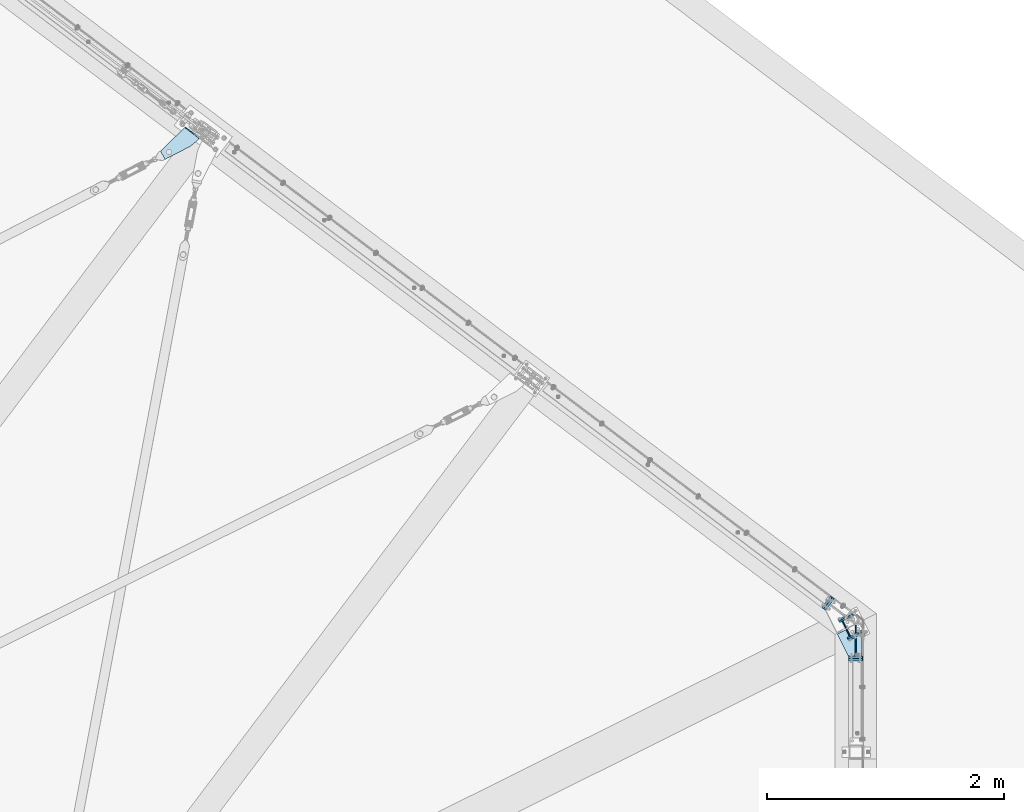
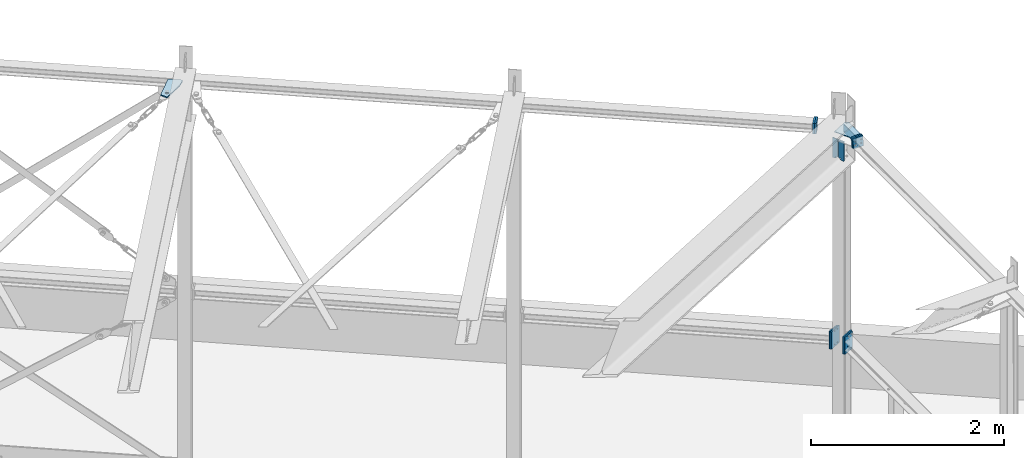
# One storey, part 67 of 476: 13 plates, 56 openings.
"""IFC2X3 building model written with IfcOpenShell, lengths in millimetres."""

from ifc_helpers import new_model, entity, si_unit, converted_unit, point, frame, frame_2d, origin, origin_with_axes, origin_2d_with_axis, place, context, project, spatial, polyline, circle_curve, line_curve, trimmed, segment, composite_curve, circle, outline, extrude, material, layer, layer_set, element, save


model = new_model("IFC2X3")

# Units and contexts
model_context = context("Model", 3, precision=1e-09, world=origin_with_axes())
ifc_project = project(units=[si_unit("LENGTHUNIT", "METRE", prefix="MILLI"), si_unit("AREAUNIT", "SQUARE_METRE"), si_unit("VOLUMEUNIT", "CUBIC_METRE"), converted_unit("PLANEANGLEUNIT", "DEGREE", entity("IfcPlaneAngleMeasure", 0.01745329), si_unit("PLANEANGLEUNIT", "RADIAN"), dimensions=[0, 0, 0, 0, 0, 0, 0])], contexts=[model_context])

# Site, building, storey
site_placement = place(None, origin_with_axes())
site = spatial("IfcSite", under=ifc_project, at=site_placement, Name="mKR Teilneubau & Sanierung BA1 - Ostfildern", CompositionType="ELEMENT")
building_placement = place(site_placement, origin_with_axes())
building = spatial("IfcBuilding", under=site, at=building_placement, Name="Struktur 1", CompositionType="ELEMENT")
storey_placement = place(building_placement, origin_with_axes())
storey = spatial("IfcBuildingStorey", under=building, at=storey_placement, Name="Default Storey", CompositionType="ELEMENT", Elevation=0.0)

# Plate, openings
ifc_material = material(Name="S235JR")
ifc_layer_1 = layer(ifc_material, 15.0)
ifc_layer_set_1 = layer_set([ifc_layer_1], Name="S235JR")
plate_1_placement = place(None, frame((16431.805280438, 5024.554392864, 5627.058739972), z_axis=(0.018098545, 0.02396011, -0.999549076), x_axis=(-0.602462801, -0.797581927, -0.030027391)))
plate_1 = element("IfcPlate", 1, at=plate_1_placement, inside=storey, material=ifc_layer_set_1, Name="-", ObjectType="-", context=model_context, shape_type="SweptSolid", body=[
    extrude(outline(polyline([(0.0, 0.0), (69.510071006, 0.0), (323.508183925, 122.383902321), (288.782369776, 194.454130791), (1.572e-05, 149.999963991), (0.0, 0.0)])), origin_with_axes(), (0.0, 0.0, 1.0), 15.0),
])
opening_1_placement = place(plate_1_placement, frame((0.0, 0.0, -0.01), z_axis=(0.0, 0.0, 1.0), x_axis=(1.0, 0.0, 0.0)))
element("IfcOpeningElement", 2, at=opening_1_placement, cuts=plate_1, ObjectType="Opening", context=model_context, shape_type="SweptSolid", body=[
    extrude(outline(composite_curve([segment(trimmed(line_curve((69.510071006, 0.0), (0.900878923, 0.434070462), 39.961688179), [point((69.510071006, 0.0))], [point((105.510713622, 17.346188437))], True, "CARTESIAN"), True, "CONTINUOUS"), segment(trimmed(circle_curve(frame_2d((29.548382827, 175.0), x_axis=(-1.0, 0.0)), 175.0), [point((105.510713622, 17.346188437))], [point((29.548382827, 0.0))], False, "CARTESIAN"), True, "CONTINUOUS"), segment(trimmed(line_curve((29.548382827, 0.0), (1.0, 0.0), 39.961688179), [point((29.548382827, 0.0))], [point((69.510071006, 0.0))], True, "CARTESIAN"), True, "CONTINUOUS")], self_intersect=False)), origin(), (0.0, 0.0, 1.0), 15.02),
])
opening_2_placement = place(plate_1_placement, frame((1.585e-05, 151.232457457, 0.0), z_axis=(-1.05e-07, -1.0, 0.0), x_axis=(1.0, -1.05e-07, 0.0)))
element("IfcOpeningElement", 3, at=opening_2_placement, cuts=plate_1, ObjectType="Opening", context=model_context, shape_type="SweptSolid", body=[
    extrude(outline(polyline([(0.0, 0.0), (8.0, 0.0), (0.0, 8.0), (0.0, 0.0)])), origin(), (0.0, 0.0, 1.0), 151.253456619),
])
opening_3_placement = place(plate_1_placement, frame((252.094055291, 132.37553791, 15.499832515), z_axis=(-1.1814e-05, -5.692e-06, -1.0), x_axis=(-0.900878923, -0.434070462, 1.3114e-05)))
element("IfcOpeningElement", 4, at=opening_3_placement, cuts=plate_1, ObjectType="Opening", context=model_context, shape_type="SweptSolid", body=[
    extrude(circle(Radius=14.501, at=origin_2d_with_axis()), origin(), (0.0, 0.0, 1.0), 16.000000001),
])

ifc_layer_2 = layer(ifc_material, 10.0)
ifc_layer_set_2 = layer_set([ifc_layer_2], Name="S235JR")
plate_2_placement = place(None, frame((21893.472549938, 879.21557703, 5221.069110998), z_axis=(-0.895191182, -0.44568234, 0.0), x_axis=(0.44568234, -0.895191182, 0.0)))
plate_2 = element("IfcPlate", 5, at=plate_2_placement, inside=storey, material=ifc_layer_set_2, Name="Stiffener#2", ObjectType="Stiffener#2", context=model_context, shape_type="SweptSolid", body=[
    extrude(outline(polyline([(0.0, 0.0), (65.0, 0.0), (65.0, 250.0), (0.0, 250.0), (0.0, 0.0)])), origin_with_axes(), (0.0, 0.0, 1.0), 10.0),
])
opening_4_placement = place(plate_2_placement, frame((0.0, 0.0, -0.01), z_axis=(0.0, 0.0, 1.0), x_axis=(1.0, 0.0, 0.0)))
element("IfcOpeningElement", 6, at=opening_4_placement, cuts=plate_2, ObjectType="Opening", context=model_context, shape_type="SweptSolid", body=[
    extrude(outline(composite_curve([segment(trimmed(line_curve((0.0, 0.0), (1.0, 0.0), 30.0), [point((0.0, 0.0))], [point((30.0, 0.0))], True, "CARTESIAN"), True, "CONTINUOUS"), segment(trimmed(circle_curve(frame_2d((30.0, 30.0), x_axis=(-1.0, 0.0)), 30.0), [point((30.0, 0.0))], [point((0.0, 30.0))], False, "CARTESIAN"), True, "CONTINUOUS"), segment(trimmed(line_curve((0.0, 30.0), (0.0, -1.0), 30.0), [point((0.0, 30.0))], [point((0.0, 0.0))], True, "CARTESIAN"), True, "CONTINUOUS")], self_intersect=False)), origin(), (0.0, 0.0, 1.0), 10.02),
])
opening_5_placement = place(plate_2_placement, frame((27.0, 25.230402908, -0.5), z_axis=(0.0, 0.0, 1.0), x_axis=(0.0, -1.0, 0.0)))
element("IfcOpeningElement", 7, at=opening_5_placement, cuts=plate_2, ObjectType="Opening", context=model_context, shape_type="SweptSolid", body=[
    extrude(circle(Radius=7.001, at=frame_2d((7.0, -7.0), x_axis=(1.0, 0.0))), origin(), (0.0, 0.0, 1.0), 11.0),
])

plate_3_placement = place(None, frame((21859.155009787, 948.145298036, 5221.069110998), z_axis=(-0.895191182, -0.44568234, 0.0), x_axis=(0.44568234, -0.895191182, 0.0)))
plate_3 = element("IfcPlate", 8, at=plate_3_placement, inside=storey, material=ifc_layer_set_2, Name="Stiffener#2", ObjectType="Stiffener#2", context=model_context, shape_type="SweptSolid", body=[
    extrude(outline(polyline([(0.0, 0.0), (65.0, 0.0), (65.0, 250.0), (0.0, 250.0), (0.0, 0.0)])), origin_with_axes(), (0.0, 0.0, 1.0), 10.0),
])
opening_6_placement = place(plate_3_placement, frame((0.0, 0.0, -0.01), z_axis=(0.0, 0.0, 1.0), x_axis=(1.0, 0.0, 0.0)))
element("IfcOpeningElement", 9, at=opening_6_placement, cuts=plate_3, ObjectType="Opening", context=model_context, shape_type="SweptSolid", body=[
    extrude(outline(composite_curve([segment(trimmed(line_curve((65.0, 0.0), (0.0, 1.0), 30.0), [point((65.0, 0.0))], [point((65.0, 30.0))], True, "CARTESIAN"), True, "CONTINUOUS"), segment(trimmed(circle_curve(frame_2d((35.0, 30.0), x_axis=(-1.0, 0.0)), 30.0), [point((65.0, 30.0))], [point((35.0, 0.0))], False, "CARTESIAN"), True, "CONTINUOUS"), segment(trimmed(line_curve((35.0, 0.0), (1.0, 0.0), 30.0), [point((35.0, 0.0))], [point((65.0, 0.0))], True, "CARTESIAN"), True, "CONTINUOUS")], self_intersect=False)), origin(), (0.0, 0.0, 1.0), 10.02),
])
opening_7_placement = place(plate_3_placement, frame((38.0, 25.230402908, -0.5), z_axis=(0.0, 0.0, 1.0), x_axis=(0.0, -1.0, 0.0)))
element("IfcOpeningElement", 10, at=opening_7_placement, cuts=plate_3, ObjectType="Opening", context=model_context, shape_type="SweptSolid", body=[
    extrude(circle(Radius=7.001, at=frame_2d((7.0, 7.0), x_axis=(1.0, 0.0))), origin(), (0.0, 0.0, 1.0), 11.0),
])

ifc_layer_3 = layer(ifc_material, 20.0)
ifc_layer_set_3 = layer_set([ifc_layer_3], Name="S235JR")
plate_4_placement = place(None, frame((21965.608780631, 629.960737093, 5571.987213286), z_axis=(0.0, -1.0, 0.0), x_axis=(-0.030041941, 0.0, 0.999548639)))
plate_4 = element("IfcPlate", 11, at=plate_4_placement, inside=storey, material=ifc_layer_set_3, Name="Endplate#1", ObjectType="Endplate#1", context=model_context, shape_type="SweptSolid", body=[
    extrude(outline(polyline([(-67.5, -60.0), (67.5, -60.0), (67.5, 60.0), (-67.5, 60.0), (-67.5, -60.0)])), origin_with_axes(), (0.0, 0.0, 1.0), 20.0),
])
opening_8_placement = place(plate_4_placement, frame((0.0, -35.0, -0.5), z_axis=(0.0, 0.0, 1.0), x_axis=(0.0, -1.0, 0.0)))
element("IfcOpeningElement", 12, at=opening_8_placement, cuts=plate_4, ObjectType="Opening", context=model_context, shape_type="SweptSolid", body=[
    extrude(circle(Radius=9.001, at=frame_2d((0.0, 22.5), x_axis=(1.0, 0.0))), origin(), (0.0, 0.0, 1.0), 21.0),
])
opening_9_placement = place(plate_4_placement, frame((0.0, -35.0, -0.5), z_axis=(0.0, 0.0, 1.0), x_axis=(0.0, -1.0, 0.0)))
element("IfcOpeningElement", 13, at=opening_9_placement, cuts=plate_4, ObjectType="Opening", context=model_context, shape_type="SweptSolid", body=[
    extrude(circle(Radius=9.001, at=frame_2d((0.0, -22.5), x_axis=(1.0, 0.0))), origin(), (0.0, 0.0, 1.0), 21.0),
])
opening_10_placement = place(plate_4_placement, frame((0.0, 35.0, -0.5), z_axis=(0.0, 0.0, 1.0), x_axis=(0.0, -1.0, 0.0)))
element("IfcOpeningElement", 14, at=opening_10_placement, cuts=plate_4, ObjectType="Opening", context=model_context, shape_type="SweptSolid", body=[
    extrude(circle(Radius=9.001, at=frame_2d((0.0, 22.5), x_axis=(1.0, 0.0))), origin(), (0.0, 0.0, 1.0), 21.0),
])
opening_11_placement = place(plate_4_placement, frame((0.0, 35.0, -0.5), z_axis=(0.0, 0.0, 1.0), x_axis=(0.0, -1.0, 0.0)))
element("IfcOpeningElement", 15, at=opening_11_placement, cuts=plate_4, ObjectType="Opening", context=model_context, shape_type="SweptSolid", body=[
    extrude(circle(Radius=9.001, at=frame_2d((0.0, -22.5), x_axis=(1.0, 0.0))), origin(), (0.0, 0.0, 1.0), 21.0),
])

plate_5_placement = place(None, frame((21965.608780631, 649.960737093, 5571.987213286), z_axis=(0.0, -1.0, 0.0), x_axis=(-0.030041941, 0.0, 0.999548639)))
plate_5 = element("IfcPlate", 16, at=plate_5_placement, inside=storey, material=ifc_layer_set_3, Name="Endplate#2", ObjectType="Endplate#2", context=model_context, shape_type="SweptSolid", body=[
    extrude(outline(polyline([(-67.5, -60.0), (67.5, -60.0), (67.5, 60.0), (-67.5, 60.0), (-67.5, -60.0)])), origin_with_axes(), (0.0, 0.0, 1.0), 20.0),
])
opening_12_placement = place(plate_5_placement, frame((0.0, -35.0, -0.5), z_axis=(0.0, 0.0, 1.0), x_axis=(0.0, -1.0, 0.0)))
element("IfcOpeningElement", 17, at=opening_12_placement, cuts=plate_5, ObjectType="Opening", context=model_context, shape_type="SweptSolid", body=[
    extrude(circle(Radius=9.001, at=frame_2d((0.0, 22.5), x_axis=(1.0, 0.0))), origin(), (0.0, 0.0, 1.0), 21.0),
])
opening_13_placement = place(plate_5_placement, frame((0.0, -35.0, -0.5), z_axis=(0.0, 0.0, 1.0), x_axis=(0.0, -1.0, 0.0)))
element("IfcOpeningElement", 18, at=opening_13_placement, cuts=plate_5, ObjectType="Opening", context=model_context, shape_type="SweptSolid", body=[
    extrude(circle(Radius=9.001, at=frame_2d((0.0, -22.5), x_axis=(1.0, 0.0))), origin(), (0.0, 0.0, 1.0), 21.0),
])
opening_14_placement = place(plate_5_placement, frame((0.0, 35.0, -0.5), z_axis=(0.0, 0.0, 1.0), x_axis=(0.0, -1.0, 0.0)))
element("IfcOpeningElement", 19, at=opening_14_placement, cuts=plate_5, ObjectType="Opening", context=model_context, shape_type="SweptSolid", body=[
    extrude(circle(Radius=9.001, at=frame_2d((0.0, 22.5), x_axis=(1.0, 0.0))), origin(), (0.0, 0.0, 1.0), 21.0),
])
opening_15_placement = place(plate_5_placement, frame((0.0, 35.0, -0.5), z_axis=(0.0, 0.0, 1.0), x_axis=(0.0, -1.0, 0.0)))
element("IfcOpeningElement", 20, at=opening_15_placement, cuts=plate_5, ObjectType="Opening", context=model_context, shape_type="SweptSolid", body=[
    extrude(circle(Radius=9.001, at=frame_2d((0.0, -22.5), x_axis=(1.0, 0.0))), origin(), (0.0, 0.0, 1.0), 21.0),
])

ifc_layer_4 = layer(ifc_material, 8.0)
ifc_layer_set_4 = layer_set([ifc_layer_4], Name="S235JR")
plate_6_placement = place(None, frame((21903.923471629, 649.960737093, 5627.158969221), z_axis=(0.030041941, 0.0, -0.999548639), x_axis=(-0.445320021, 0.895271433, -0.013384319)))
plate_6 = element("IfcPlate", 21, at=plate_6_placement, inside=storey, material=ifc_layer_set_4, Name="-", ObjectType="-", context=model_context, shape_type="SweptSolid", body=[
    extrude(outline(polyline([(0.0, 0.0), (237.931881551, 0.0), (237.931881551, 297.115051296), (-71.28112416, 143.238900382), (0.0, 0.0)])), origin_with_axes(), (0.0, 0.0, 1.0), 8.0),
])
opening_16_placement = place(plate_6_placement, frame((309.302532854, 153.920703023, 4.0), z_axis=(-0.895271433, -0.445521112, 0.0), x_axis=(-0.445320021, 0.894867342, 0.030041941)))
element("IfcOpeningElement", 22, at=opening_16_placement, cuts=plate_6, ObjectType="Opening", context=model_context, shape_type="SweptSolid", body=[
    extrude(outline(polyline([(115.853775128, 39.76885371), (117.684802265, -21.152664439), (191.216735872, -21.152664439), (191.216735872, 32.662424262), (115.853775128, 39.76885371)])), origin(), (0.0, 0.0, 1.0), 345.584644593),
])
opening_17_placement = place(plate_6_placement, frame((1.1e-08, 297.215051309, 3.999999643), z_axis=(0.0, -1.0, 0.0), x_axis=(-0.999910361, 0.0, 0.013389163)))
element("IfcOpeningElement", 23, at=opening_17_placement, cuts=plate_6, ObjectType="Opening", context=model_context, shape_type="SweptSolid", body=[
    extrude(outline(polyline([(-208.377482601, -48.602530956), (-209.460296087, 32.262595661), (-264.459464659, 32.262595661), (-264.459464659, -27.733775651), (-208.377482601, -48.602530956)])), origin(), (0.0, 0.0, 1.0), 297.315051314),
])
opening_18_placement = place(plate_6_placement, frame((0.0, 0.0, 8.1), z_axis=(0.0, 0.0, -1.0), x_axis=(0.0, 1.0, 0.0)))
element("IfcOpeningElement", 24, at=opening_18_placement, cuts=plate_6, ObjectType="Opening", context=model_context, shape_type="SweptSolid", body=[
    extrude(outline(polyline([(190.147463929, 225.541767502), (230.497464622, 155.653516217), (279.939565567, 235.517335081), (190.147463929, 225.541767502)])), origin(), (0.0, 0.0, 1.0), 8.2),
])

plate_7_placement = place(None, frame((21969.606975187, 780.624812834, 5572.107381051), z_axis=(-0.999548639, 0.0, -0.030041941), x_axis=(0.0, -1.0, 0.0)))
plate_7 = element("IfcPlate", 25, at=plate_7_placement, inside=storey, material=ifc_layer_set_4, Name="-", ObjectType="-", context=model_context, shape_type="SweptSolid", body=[
    extrude(outline(polyline([(-130.663075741, -49.0), (130.663075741, -49.0), (130.663075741, 49.0), (-130.663075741, 49.0), (-130.663075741, -49.0)])), origin_with_axes(), (0.0, 0.0, 1.0), 8.0),
])
opening_19_placement = place(plate_7_placement, frame((0.0005, 0.0, 8.5), z_axis=(0.0, 0.0, -1.0), x_axis=(-1.0, 0.0, 0.0)))
element("IfcOpeningElement", 26, at=opening_19_placement, cuts=plate_7, ObjectType="Opening", context=model_context, shape_type="SweptSolid", body=[
    extrude(circle(Radius=6.001, at=frame_2d((118.663575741, 37.0), x_axis=(1.0, 0.0))), origin(), (0.0, 0.0, 1.0), 9.0),
])
opening_20_placement = place(plate_7_placement, frame((0.0005, 0.0, 8.5), z_axis=(0.0, 0.0, -1.0), x_axis=(-1.0, 0.0, 0.0)))
element("IfcOpeningElement", 27, at=opening_20_placement, cuts=plate_7, ObjectType="Opening", context=model_context, shape_type="SweptSolid", body=[
    extrude(circle(Radius=6.001, at=frame_2d((-118.663575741, 37.0), x_axis=(1.0, 0.0))), origin(), (0.0, 0.0, 1.0), 9.0),
])
opening_21_placement = place(plate_7_placement, frame((0.0005, 0.0, 8.5), z_axis=(0.0, 0.0, -1.0), x_axis=(-1.0, 0.0, 0.0)))
element("IfcOpeningElement", 28, at=opening_21_placement, cuts=plate_7, ObjectType="Opening", context=model_context, shape_type="SweptSolid", body=[
    extrude(circle(Radius=6.001, at=frame_2d((118.663575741, -37.0), x_axis=(1.0, 0.0))), origin(), (0.0, 0.0, 1.0), 9.0),
])
opening_22_placement = place(plate_7_placement, frame((0.0005, 0.0, 8.5), z_axis=(0.0, 0.0, -1.0), x_axis=(-1.0, 0.0, 0.0)))
element("IfcOpeningElement", 29, at=opening_22_placement, cuts=plate_7, ObjectType="Opening", context=model_context, shape_type="SweptSolid", body=[
    extrude(circle(Radius=6.001, at=frame_2d((-118.663575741, -37.0), x_axis=(1.0, 0.0))), origin(), (0.0, 0.0, 1.0), 9.0),
])

plate_8_placement = place(None, frame((21732.711403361, 1097.751435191, 5571.987137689), z_axis=(-0.797941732, 0.602734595, 0.0), x_axis=(-0.018107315, -0.023971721, 0.999548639)))
plate_8 = element("IfcPlate", 30, at=plate_8_placement, inside=storey, material=ifc_layer_set_3, Name="Endplate#1", ObjectType="Endplate#1", context=model_context, shape_type="SweptSolid", body=[
    extrude(outline(polyline([(-67.5, -60.0), (67.5, -60.0), (67.5, 60.0), (-67.5, 60.0), (-67.5, -60.0)])), origin_with_axes(), (0.0, 0.0, 1.0), 20.0),
])
opening_23_placement = place(plate_8_placement, frame((0.0, -35.0, -0.5), z_axis=(0.0, 0.0, 1.0), x_axis=(0.0, -1.0, 0.0)))
element("IfcOpeningElement", 31, at=opening_23_placement, cuts=plate_8, ObjectType="Opening", context=model_context, shape_type="SweptSolid", body=[
    extrude(circle(Radius=9.001, at=frame_2d((0.0, 22.5), x_axis=(1.0, 0.0))), origin(), (0.0, 0.0, 1.0), 21.0),
])
opening_24_placement = place(plate_8_placement, frame((0.0, -35.0, -0.5), z_axis=(0.0, 0.0, 1.0), x_axis=(0.0, -1.0, 0.0)))
element("IfcOpeningElement", 32, at=opening_24_placement, cuts=plate_8, ObjectType="Opening", context=model_context, shape_type="SweptSolid", body=[
    extrude(circle(Radius=9.001, at=frame_2d((0.0, -22.5), x_axis=(1.0, 0.0))), origin(), (0.0, 0.0, 1.0), 21.0),
])
opening_25_placement = place(plate_8_placement, frame((0.0, 35.0, -0.5), z_axis=(0.0, 0.0, 1.0), x_axis=(0.0, -1.0, 0.0)))
element("IfcOpeningElement", 33, at=opening_25_placement, cuts=plate_8, ObjectType="Opening", context=model_context, shape_type="SweptSolid", body=[
    extrude(circle(Radius=9.001, at=frame_2d((0.0, 22.5), x_axis=(1.0, 0.0))), origin(), (0.0, 0.0, 1.0), 21.0),
])
opening_26_placement = place(plate_8_placement, frame((0.0, 35.0, -0.5), z_axis=(0.0, 0.0, 1.0), x_axis=(0.0, -1.0, 0.0)))
element("IfcOpeningElement", 34, at=opening_26_placement, cuts=plate_8, ObjectType="Opening", context=model_context, shape_type="SweptSolid", body=[
    extrude(circle(Radius=9.001, at=frame_2d((0.0, -22.5), x_axis=(1.0, 0.0))), origin(), (0.0, 0.0, 1.0), 21.0),
])

plate_9_placement = place(None, frame((21748.67023801, 1085.696743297, 5571.987137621), z_axis=(-0.797941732, 0.602734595, 0.0), x_axis=(-0.018107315, -0.023971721, 0.999548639)))
plate_9 = element("IfcPlate", 35, at=plate_9_placement, inside=storey, material=ifc_layer_set_3, Name="Endplate#2", ObjectType="Endplate#2", context=model_context, shape_type="SweptSolid", body=[
    extrude(outline(polyline([(-67.5, -60.0), (67.5, -60.0), (67.5, 60.0), (-67.5, 60.0), (-67.5, -60.0)])), origin_with_axes(), (0.0, 0.0, 1.0), 20.0),
])
opening_27_placement = place(plate_9_placement, frame((0.0, 35.0, -0.5), z_axis=(0.0, 0.0, 1.0), x_axis=(0.0, -1.0, 0.0)))
element("IfcOpeningElement", 36, at=opening_27_placement, cuts=plate_9, ObjectType="Opening", context=model_context, shape_type="SweptSolid", body=[
    extrude(circle(Radius=9.001, at=frame_2d((0.0, 22.5), x_axis=(1.0, 0.0))), origin(), (0.0, 0.0, 1.0), 21.0),
])
opening_28_placement = place(plate_9_placement, frame((0.0, 35.0, -0.5), z_axis=(0.0, 0.0, 1.0), x_axis=(0.0, -1.0, 0.0)))
element("IfcOpeningElement", 37, at=opening_28_placement, cuts=plate_9, ObjectType="Opening", context=model_context, shape_type="SweptSolid", body=[
    extrude(circle(Radius=9.001, at=frame_2d((0.0, -22.5), x_axis=(1.0, 0.0))), origin(), (0.0, 0.0, 1.0), 21.0),
])
opening_29_placement = place(plate_9_placement, frame((0.0, -35.0, -0.5), z_axis=(0.0, 0.0, 1.0), x_axis=(0.0, -1.0, 0.0)))
element("IfcOpeningElement", 38, at=opening_29_placement, cuts=plate_9, ObjectType="Opening", context=model_context, shape_type="SweptSolid", body=[
    extrude(circle(Radius=9.001, at=frame_2d((0.0, 22.5), x_axis=(1.0, 0.0))), origin(), (0.0, 0.0, 1.0), 21.0),
])
opening_30_placement = place(plate_9_placement, frame((0.0, -35.0, -0.5), z_axis=(0.0, 0.0, 1.0), x_axis=(0.0, -1.0, 0.0)))
element("IfcOpeningElement", 39, at=opening_30_placement, cuts=plate_9, ObjectType="Opening", context=model_context, shape_type="SweptSolid", body=[
    extrude(circle(Radius=9.001, at=frame_2d((0.0, -22.5), x_axis=(1.0, 0.0))), origin(), (0.0, 0.0, 1.0), 21.0),
])

plate_10_placement = place(None, frame((21878.700477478, 990.281572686, 2912.000000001), z_axis=(0.44568234, -0.895191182, 0.0), x_axis=(0.0, 0.0, -1.0)))
plate_10 = element("IfcPlate", 40, at=plate_10_placement, inside=storey, material=ifc_layer_set_1, Name="Endplate#1", ObjectType="Endplate#1", context=model_context, shape_type="SweptSolid", body=[
    extrude(outline(polyline([(-110.0, -69.524785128), (110.0, -69.524785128), (110.0, 69.524785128), (-110.0, 69.524785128), (-110.0, -69.524785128)])), origin_with_axes(), (0.0, 0.0, 1.0), 15.0),
])
opening_31_placement = place(plate_10_placement, frame((37.0, -17.29269938, 15.5), z_axis=(0.0, 0.0, -1.0), x_axis=(1.0, 0.0, 0.0)))
element("IfcOpeningElement", 41, at=opening_31_placement, cuts=plate_10, ObjectType="Opening", context=model_context, shape_type="SweptSolid", body=[
    extrude(circle(Radius=6.001, at=origin_2d_with_axis()), origin(), (0.0, 0.0, 1.0), 16.0),
])
opening_32_placement = place(plate_10_placement, frame((-37.0, -17.29269938, 15.5), z_axis=(0.0, 0.0, -1.0), x_axis=(1.0, 0.0, 0.0)))
element("IfcOpeningElement", 42, at=opening_32_placement, cuts=plate_10, ObjectType="Opening", context=model_context, shape_type="SweptSolid", body=[
    extrude(circle(Radius=6.001, at=origin_2d_with_axis()), origin(), (0.0, 0.0, 1.0), 16.0),
])
opening_33_placement = place(plate_10_placement, frame((-37.0, 12.29269938, 15.5), z_axis=(0.0, 0.0, -1.0), x_axis=(1.0, 0.0, 0.0)))
element("IfcOpeningElement", 43, at=opening_33_placement, cuts=plate_10, ObjectType="Opening", context=model_context, shape_type="SweptSolid", body=[
    extrude(circle(Radius=6.001, at=origin_2d_with_axis()), origin(), (0.0, 0.0, 1.0), 16.0),
])
opening_34_placement = place(plate_10_placement, frame((37.0, 12.29269938, 15.5), z_axis=(0.0, 0.0, -1.0), x_axis=(1.0, 0.0, 0.0)))
element("IfcOpeningElement", 44, at=opening_34_placement, cuts=plate_10, ObjectType="Opening", context=model_context, shape_type="SweptSolid", body=[
    extrude(circle(Radius=6.001, at=origin_2d_with_axis()), origin(), (0.0, 0.0, 1.0), 16.0),
])
opening_35_placement = place(plate_10_placement, frame((85.0, -4.787285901, 15.5), z_axis=(0.0, 0.0, -1.0), x_axis=(0.0, -1.0, 0.0)))
element("IfcOpeningElement", 45, at=opening_35_placement, cuts=plate_10, ObjectType="Opening", context=model_context, shape_type="SweptSolid", body=[
    extrude(circle(Radius=7.001, at=frame_2d((0.0, 170.0), x_axis=(1.0, 0.0))), origin(), (0.0, 0.0, 1.0), 16.0),
])
opening_36_placement = place(plate_10_placement, frame((85.0, -4.787285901, 15.5), z_axis=(0.0, 0.0, -1.0), x_axis=(0.0, -1.0, 0.0)))
element("IfcOpeningElement", 46, at=opening_36_placement, cuts=plate_10, ObjectType="Opening", context=model_context, shape_type="SweptSolid", body=[
    extrude(circle(Radius=7.001, at=origin_2d_with_axis()), origin(), (0.0, 0.0, 1.0), 16.0),
])
opening_37_placement = place(plate_10_placement, frame((85.0, 45.2127141, 15.5), z_axis=(0.0, 0.0, -1.0), x_axis=(-1.0, 0.0, 0.0)))
element("IfcOpeningElement", 47, at=opening_37_placement, cuts=plate_10, ObjectType="Opening", context=model_context, shape_type="SweptSolid", body=[
    extrude(circle(Radius=7.001, at=frame_2d((170.0, 0.0), x_axis=(1.0, 0.0))), origin(), (0.0, 0.0, 1.0), 16.0),
])
opening_38_placement = place(plate_10_placement, frame((85.0, 45.2127141, 15.5), z_axis=(0.0, 0.0, -1.0), x_axis=(-1.0, 0.0, 0.0)))
element("IfcOpeningElement", 48, at=opening_38_placement, cuts=plate_10, ObjectType="Opening", context=model_context, shape_type="SweptSolid", body=[
    extrude(circle(Radius=7.001, at=origin_2d_with_axis()), origin(), (0.0, 0.0, 1.0), 16.0),
])

plate_11_placement = place(None, frame((21897.754915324, 966.255672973, 2912.000000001), z_axis=(-0.44568234, 0.895191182, 0.0), x_axis=(0.895191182, 0.44568234, 0.0)))
plate_11 = element("IfcPlate", 49, at=plate_11_placement, inside=storey, material=ifc_layer_set_1, Name="T-plate", ObjectType="T-plate", context=model_context, shape_type="SweptSolid", body=[
    extrude(outline(polyline([(-75.874230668, -110.0), (75.874230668, -110.0), (75.874230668, 110.0), (-75.874230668, 110.0), (-75.874230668, -110.0)])), origin_with_axes(), (0.0, 0.0, 1.0), 15.0),
])
opening_39_placement = place(plate_11_placement, frame((75.874230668, 110.001, 15.0), z_axis=(0.0, -1.0, 0.0), x_axis=(-1.0, 0.0, 0.0)))
element("IfcOpeningElement", 50, at=opening_39_placement, cuts=plate_11, ObjectType="Opening", context=model_context, shape_type="SweptSolid", body=[
    extrude(outline(polyline([(0.0, 0.0), (8.0, 0.0), (0.0, 8.0), (0.0, 0.0)])), origin(), (0.0, 0.0, 1.0), 220.022),
])
opening_40_placement = place(plate_11_placement, frame((38.863268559, 85.0, -0.5), z_axis=(0.0, 0.0, 1.0), x_axis=(0.0, -1.0, 0.0)))
element("IfcOpeningElement", 51, at=opening_40_placement, cuts=plate_11, ObjectType="Opening", context=model_context, shape_type="SweptSolid", body=[
    extrude(circle(Radius=7.001, at=frame_2d((170.0, 0.0), x_axis=(1.0, 0.0))), origin(), (0.0, 0.0, 1.0), 16.0),
])
opening_41_placement = place(plate_11_placement, frame((38.863268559, 85.0, -0.5), z_axis=(0.0, 0.0, 1.0), x_axis=(0.0, -1.0, 0.0)))
element("IfcOpeningElement", 52, at=opening_41_placement, cuts=plate_11, ObjectType="Opening", context=model_context, shape_type="SweptSolid", body=[
    extrude(circle(Radius=7.001, at=origin_2d_with_axis()), origin(), (0.0, 0.0, 1.0), 16.0),
])
opening_42_placement = place(plate_11_placement, frame((-11.136731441, 85.0, -0.5), z_axis=(0.0, 0.0, 1.0), x_axis=(-1.0, 0.0, 0.0)))
element("IfcOpeningElement", 53, at=opening_42_placement, cuts=plate_11, ObjectType="Opening", context=model_context, shape_type="SweptSolid", body=[
    extrude(circle(Radius=7.001, at=frame_2d((0.0, 170.0), x_axis=(1.0, 0.0))), origin(), (0.0, 0.0, 1.0), 16.0),
])
opening_43_placement = place(plate_11_placement, frame((-11.136731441, 85.0, -0.5), z_axis=(0.0, 0.0, 1.0), x_axis=(-1.0, 0.0, 0.0)))
element("IfcOpeningElement", 54, at=opening_43_placement, cuts=plate_11, ObjectType="Opening", context=model_context, shape_type="SweptSolid", body=[
    extrude(circle(Radius=7.001, at=origin_2d_with_axis()), origin(), (0.0, 0.0, 1.0), 16.0),
])

plate_12_placement = place(None, frame((21967.846758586, 811.248221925, 2912.000017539), z_axis=(-0.44568234, 0.895191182, 0.0), x_axis=(0.0, 0.0, -1.0)))
plate_12 = element("IfcPlate", 55, at=plate_12_placement, inside=storey, material=ifc_layer_set_1, Name="Endplate#1", ObjectType="Endplate#1", context=model_context, shape_type="SweptSolid", body=[
    extrude(outline(polyline([(-110.0, -69.524788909), (110.0, -69.524788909), (110.0, 69.524788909), (-110.0, 69.524788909), (-110.0, -69.524788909)])), origin_with_axes(), (0.0, 0.0, 1.0), 15.0),
])
opening_44_placement = place(plate_12_placement, frame((37.0, 17.292699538, 15.5), z_axis=(0.0, 0.0, -1.0), x_axis=(-1.0, 0.0, 0.0)))
element("IfcOpeningElement", 56, at=opening_44_placement, cuts=plate_12, ObjectType="Opening", context=model_context, shape_type="SweptSolid", body=[
    extrude(circle(Radius=6.001, at=origin_2d_with_axis()), origin(), (0.0, 0.0, 1.0), 16.0),
])
opening_45_placement = place(plate_12_placement, frame((-37.0, 17.292699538, 15.5), z_axis=(0.0, 0.0, -1.0), x_axis=(-1.0, 0.0, 0.0)))
element("IfcOpeningElement", 57, at=opening_45_placement, cuts=plate_12, ObjectType="Opening", context=model_context, shape_type="SweptSolid", body=[
    extrude(circle(Radius=6.001, at=origin_2d_with_axis()), origin(), (0.0, 0.0, 1.0), 16.0),
])
opening_46_placement = place(plate_12_placement, frame((-37.0, -12.292699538, 15.5), z_axis=(0.0, 0.0, -1.0), x_axis=(-1.0, 0.0, 0.0)))
element("IfcOpeningElement", 58, at=opening_46_placement, cuts=plate_12, ObjectType="Opening", context=model_context, shape_type="SweptSolid", body=[
    extrude(circle(Radius=6.001, at=origin_2d_with_axis()), origin(), (0.0, 0.0, 1.0), 16.0),
])
opening_47_placement = place(plate_12_placement, frame((37.0, -12.292699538, 15.5), z_axis=(0.0, 0.0, -1.0), x_axis=(-1.0, 0.0, 0.0)))
element("IfcOpeningElement", 59, at=opening_47_placement, cuts=plate_12, ObjectType="Opening", context=model_context, shape_type="SweptSolid", body=[
    extrude(circle(Radius=6.001, at=origin_2d_with_axis()), origin(), (0.0, 0.0, 1.0), 16.0),
])
opening_48_placement = place(plate_12_placement, frame((85.0, 4.7872859, 15.5), z_axis=(0.0, 0.0, -1.0), x_axis=(-1.0, 0.0, 0.0)))
element("IfcOpeningElement", 60, at=opening_48_placement, cuts=plate_12, ObjectType="Opening", context=model_context, shape_type="SweptSolid", body=[
    extrude(circle(Radius=7.001, at=frame_2d((170.0, 0.0), x_axis=(1.0, 0.0))), origin(), (0.0, 0.0, 1.0), 16.0),
])
opening_49_placement = place(plate_12_placement, frame((85.0, 4.7872859, 15.5), z_axis=(0.0, 0.0, -1.0), x_axis=(-1.0, 0.0, 0.0)))
element("IfcOpeningElement", 61, at=opening_49_placement, cuts=plate_12, ObjectType="Opening", context=model_context, shape_type="SweptSolid", body=[
    extrude(circle(Radius=7.001, at=origin_2d_with_axis()), origin(), (0.0, 0.0, 1.0), 16.0),
])
opening_50_placement = place(plate_12_placement, frame((85.0, -45.212714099, 15.5), z_axis=(0.0, 0.0, -1.0), x_axis=(0.0, -1.0, 0.0)))
element("IfcOpeningElement", 62, at=opening_50_placement, cuts=plate_12, ObjectType="Opening", context=model_context, shape_type="SweptSolid", body=[
    extrude(circle(Radius=7.001, at=frame_2d((0.0, 170.0), x_axis=(1.0, 0.0))), origin(), (0.0, 0.0, 1.0), 16.0),
])
opening_51_placement = place(plate_12_placement, frame((85.0, -45.212714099, 15.5), z_axis=(0.0, 0.0, -1.0), x_axis=(0.0, -1.0, 0.0)))
element("IfcOpeningElement", 63, at=opening_51_placement, cuts=plate_12, ObjectType="Opening", context=model_context, shape_type="SweptSolid", body=[
    extrude(circle(Radius=7.001, at=origin_2d_with_axis()), origin(), (0.0, 0.0, 1.0), 16.0),
])

plate_13_placement = place(None, frame((21960.155347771, 840.931349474, 2912.000017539), z_axis=(0.44568234, -0.895191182, 0.0), x_axis=(-0.895191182, -0.44568234, 0.0)))
plate_13 = element("IfcPlate", 64, at=plate_13_placement, inside=storey, material=ifc_layer_set_1, Name="T-plate", ObjectType="T-plate", context=model_context, shape_type="SweptSolid", body=[
    extrude(outline(polyline([(-75.868751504, -110.0), (75.868751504, -110.0), (75.868751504, 110.0), (-75.868751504, 110.0), (-75.868751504, -110.0)])), origin_with_axes(), (0.0, 0.0, 1.0), 15.0),
])
opening_52_placement = place(plate_13_placement, frame((-75.868751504, -110.001, 15.0), z_axis=(0.0, 1.0, 0.0), x_axis=(1.0, 0.0, 0.0)))
element("IfcOpeningElement", 65, at=opening_52_placement, cuts=plate_13, ObjectType="Opening", context=model_context, shape_type="SweptSolid", body=[
    extrude(outline(polyline([(0.0, 0.0), (8.0, 0.0), (0.0, 8.0), (0.0, 0.0)])), origin(), (0.0, 0.0, 1.0), 220.022),
])
opening_53_placement = place(plate_13_placement, frame((11.131248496, 85.0, -0.5), z_axis=(0.0, 0.0, 1.0), x_axis=(0.0, -1.0, 0.0)))
element("IfcOpeningElement", 66, at=opening_53_placement, cuts=plate_13, ObjectType="Opening", context=model_context, shape_type="SweptSolid", body=[
    extrude(circle(Radius=7.001, at=frame_2d((170.0, 0.0), x_axis=(1.0, 0.0))), origin(), (0.0, 0.0, 1.0), 16.0),
])
opening_54_placement = place(plate_13_placement, frame((11.131248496, 85.0, -0.5), z_axis=(0.0, 0.0, 1.0), x_axis=(0.0, -1.0, 0.0)))
element("IfcOpeningElement", 67, at=opening_54_placement, cuts=plate_13, ObjectType="Opening", context=model_context, shape_type="SweptSolid", body=[
    extrude(circle(Radius=7.001, at=origin_2d_with_axis()), origin(), (0.0, 0.0, 1.0), 16.0),
])
opening_55_placement = place(plate_13_placement, frame((-38.868751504, 85.0, -0.5), z_axis=(0.0, 0.0, 1.0), x_axis=(-1.0, 0.0, 0.0)))
element("IfcOpeningElement", 68, at=opening_55_placement, cuts=plate_13, ObjectType="Opening", context=model_context, shape_type="SweptSolid", body=[
    extrude(circle(Radius=7.001, at=frame_2d((0.0, 170.0), x_axis=(1.0, 0.0))), origin(), (0.0, 0.0, 1.0), 16.0),
])
opening_56_placement = place(plate_13_placement, frame((-38.868751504, 85.0, -0.5), z_axis=(0.0, 0.0, 1.0), x_axis=(-1.0, 0.0, 0.0)))
element("IfcOpeningElement", 69, at=opening_56_placement, cuts=plate_13, ObjectType="Opening", context=model_context, shape_type="SweptSolid", body=[
    extrude(circle(Radius=7.001, at=origin_2d_with_axis()), origin(), (0.0, 0.0, 1.0), 16.0),
])

save(model, "model.ifc")
